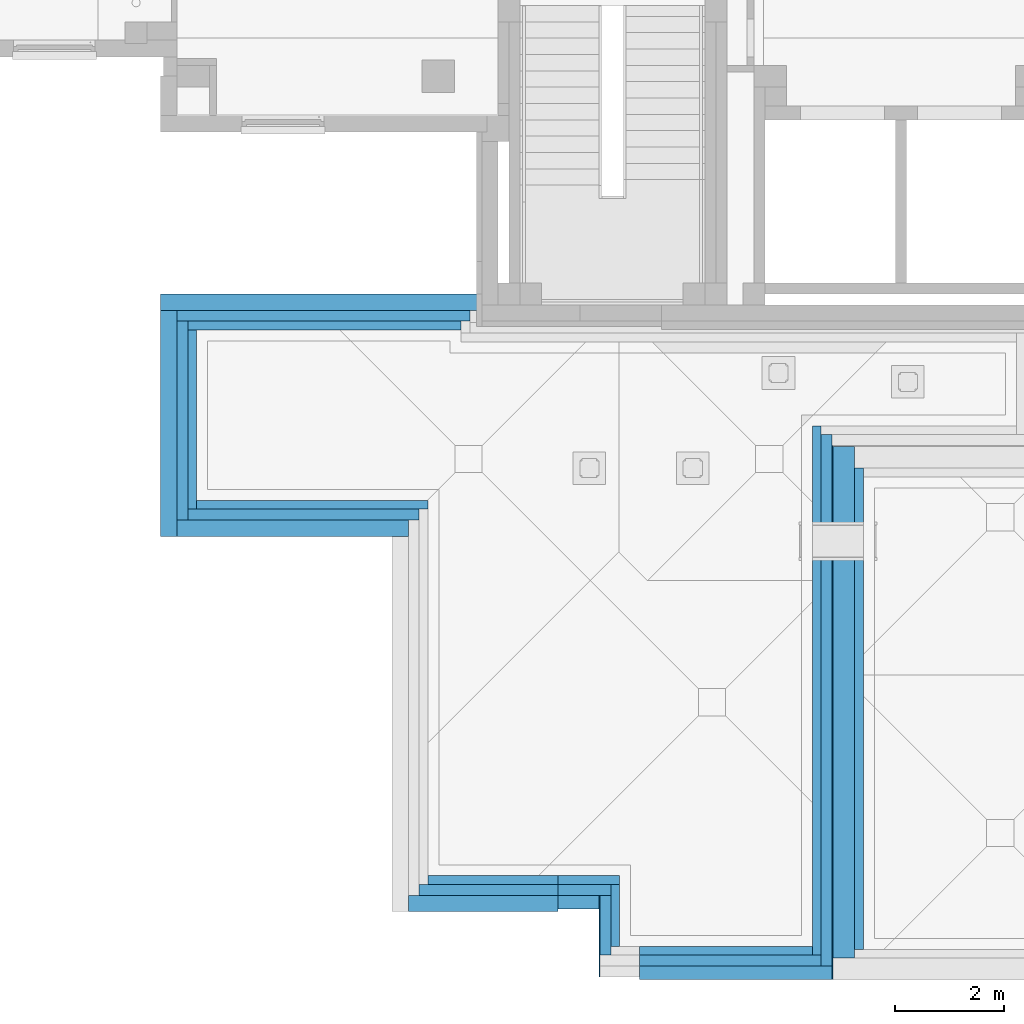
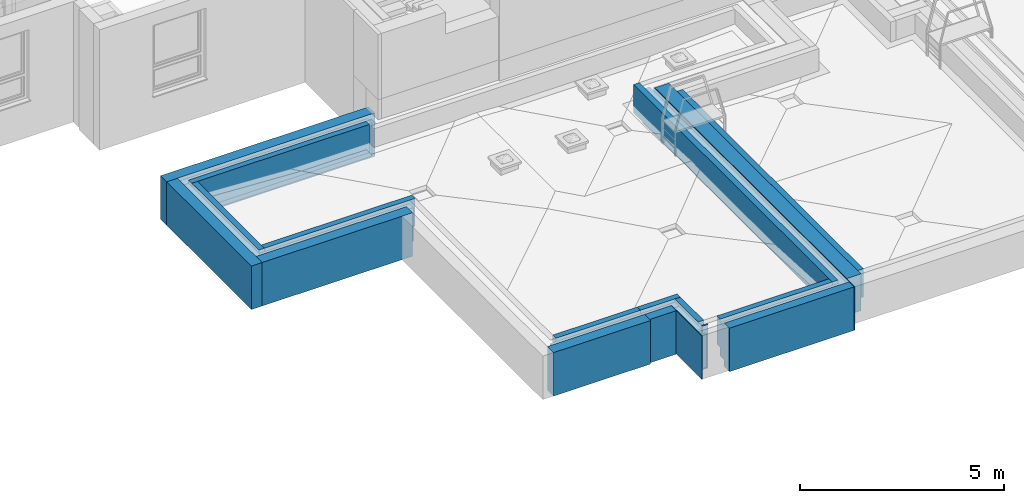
# One storey, part 19 of 50: 10 walls, 7 openings.
"""IFC4 building model written with IfcOpenShell, lengths in metres."""

from ifc_helpers import new_model, entity, si_unit, converted_unit, derived_unit, frame, frame_2d, origin, origin_with_axes, place, context, subcontext, project, spatial, polyline, rectangle, outline, extrude, clip, bounded_halfspace, material, layer, layer_set, layer_usage, element, save


model = new_model("IFC4")

# Units and contexts
model_context = context("Model", 3, precision=1e-05, world=origin())
body_context = subcontext(model_context, "Body", "Model", "MODEL_VIEW")
ifc_project = project(units=[si_unit("LENGTHUNIT", "METRE"), si_unit("AREAUNIT", "SQUARE_METRE"), si_unit("VOLUMEUNIT", "CUBIC_METRE"), si_unit("MASSUNIT", "GRAM", prefix="KILO"), converted_unit("PLANEANGLEUNIT", "DEGREE", entity("IfcPlaneAngleMeasure", 0.0174532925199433), si_unit("PLANEANGLEUNIT", "RADIAN"), dimensions=[0, 0, 0, 0, 0, 0, 0]), derived_unit("THERMALTRANSMITTANCEUNIT", [(si_unit("POWERUNIT", "WATT"), 1), (si_unit("THERMODYNAMICTEMPERATUREUNIT", "KELVIN"), -1), (si_unit("LENGTHUNIT", "METRE"), -2)]), derived_unit("VOLUMETRICFLOWRATEUNIT", [(si_unit("LENGTHUNIT", "METRE"), 3), (converted_unit("TIMEUNIT", "hour", entity("IfcTimeMeasure", 3600.0), si_unit("TIMEUNIT", "SECOND"), dimensions=[0, 0, 1, 0, 0, 0, 0]), -1), (si_unit("LENGTHUNIT", "METRE"), -1)])], contexts=[model_context])

# Site, building, storey
site_placement = place(None, origin())
site = spatial("IfcSite", under=ifc_project, at=site_placement, Name="3. ASŘ", CompositionType="ELEMENT")
building_placement = place(site_placement, origin())
building = spatial("IfcBuilding", under=site, at=building_placement, Name="Pavilon C", CompositionType="ELEMENT")
storey_placement = place(building_placement, frame((0.0, 0.0, 3.6)))
storey = spatial("IfcBuildingStorey", under=building, at=storey_placement, Name="Půdorys 2.NP", CompositionType="ELEMENT", Elevation=3.6)

# Wall, openings
ifc_material_1 = material(Name="STÁVAJÍC KCE")
ifc_layer_1 = layer(ifc_material_1, 0.4)
ifc_layer_set_1 = layer_set([ifc_layer_1])
ifc_layer_usage_1 = layer_usage(ifc_layer_set_1, "AXIS2", "POSITIVE", 0.0)
wall_1_placement = place(storey_placement, frame((36.8, -6.8, -0.15), z_axis=(0.0, 0.0, 1.0), x_axis=(0.0, -1.0, 0.0)))
wall_1 = element("IfcWall", 1, at=wall_1_placement, inside=storey, material=ifc_layer_usage_1, Name="STÁVAJÍCÍ KCE", context=body_context, shape_type="SweptSolid", body=[
    extrude(rectangle(XDim=9.40000000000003, YDim=0.4, at=frame_2d((4.70000000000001, 0.2), x_axis=(1.0, 0.0))), origin_with_axes(), (0.0, 0.0, 1.0), 1.1),
])
opening_1_placement = place(wall_1_placement, frame((3.8, 0.0, 0.55), z_axis=(0.0, 1.0, 0.0), x_axis=(0.0, 0.0, 1.0)))
element("IfcOpeningElement", 2, at=opening_1_placement, cuts=wall_1, Name="Prostup stěnou", ObjectType="Opening", context=body_context, shape_type="SweptSolid", body=[
    extrude(outline(polyline([(0.0, 0.15), (0.15, 0.15), (0.15, 0.0), (0.0, 0.0), (0.0, 0.15)])), origin_with_axes(), (0.0, 0.0, 1.0), 0.4),
])
opening_2_placement = place(wall_1_placement, frame((2.3, 0.0, 0.55), z_axis=(0.0, 1.0, 0.0), x_axis=(0.0, 0.0, 1.0)))
element("IfcOpeningElement", 3, at=opening_2_placement, cuts=wall_1, Name="Prostup stěnou", ObjectType="Opening", context=body_context, shape_type="SweptSolid", body=[
    extrude(outline(polyline([(0.0, 0.15), (0.15, 0.15), (0.15, 0.0), (0.0, 0.0), (0.0, 0.15)])), origin_with_axes(), (0.0, 0.0, 1.0), 0.4),
])
opening_3_placement = place(wall_1_placement, frame((0.799999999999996, 0.0, 0.55), z_axis=(0.0, 1.0, 0.0), x_axis=(0.0, 0.0, 1.0)))
element("IfcOpeningElement", 4, at=opening_3_placement, cuts=wall_1, Name="Prostup stěnou", ObjectType="Opening", context=body_context, shape_type="SweptSolid", body=[
    extrude(outline(polyline([(0.0, 0.15), (0.15, 0.15), (0.15, 0.0), (0.0, 0.0), (0.0, 0.15)])), origin_with_axes(), (0.0, 0.0, 1.0), 0.4),
])
opening_4_placement = place(wall_1_placement, frame((5.0, 0.0, 0.55), z_axis=(0.0, 1.0, 0.0), x_axis=(0.0, 0.0, 1.0)))
element("IfcOpeningElement", 5, at=opening_4_placement, cuts=wall_1, Name="Prostup stěnou", ObjectType="Opening", context=body_context, shape_type="SweptSolid", body=[
    extrude(outline(polyline([(0.0, 0.15), (0.15, 0.15), (0.15, 0.0), (0.0, 0.0), (0.0, 0.15)])), origin_with_axes(), (0.0, 0.0, 1.0), 0.4),
])
opening_5_placement = place(wall_1_placement, frame((6.2, 0.0, 0.55), z_axis=(0.0, 1.0, 0.0), x_axis=(0.0, 0.0, 1.0)))
element("IfcOpeningElement", 6, at=opening_5_placement, cuts=wall_1, Name="Prostup stěnou", ObjectType="Opening", context=body_context, shape_type="SweptSolid", body=[
    extrude(outline(polyline([(0.0, 0.15), (0.15, 0.15), (0.15, 0.0), (0.0, 0.0), (0.0, 0.15)])), origin_with_axes(), (0.0, 0.0, 1.0), 0.4),
])
opening_6_placement = place(wall_1_placement, frame((7.7, 0.0, 0.55), z_axis=(0.0, 1.0, 0.0), x_axis=(0.0, 0.0, 1.0)))
element("IfcOpeningElement", 7, at=opening_6_placement, cuts=wall_1, Name="Prostup stěnou", ObjectType="Opening", context=body_context, shape_type="SweptSolid", body=[
    extrude(outline(polyline([(0.0, 0.15), (0.15, 0.15), (0.15, 0.0), (0.0, 0.0), (0.0, 0.15)])), origin_with_axes(), (0.0, 0.0, 1.0), 0.4),
])
opening_7_placement = place(wall_1_placement, frame((9.2, 0.0, 0.55), z_axis=(0.0, 1.0, 0.0), x_axis=(0.0, 0.0, 1.0)))
element("IfcOpeningElement", 8, at=opening_7_placement, cuts=wall_1, Name="Prostup stěnou", ObjectType="Opening", context=body_context, shape_type="SweptSolid", body=[
    extrude(outline(polyline([(0.0, 0.15), (0.15, 0.15), (0.15, 0.0), (0.0, 0.0), (0.0, 0.15)])), origin_with_axes(), (0.0, 0.0, 1.0), 0.4),
])

# Walls
ifc_material_2 = material(Name="MINERÁLNÍ VATA")
ifc_layer_2 = layer(ifc_material_2, 0.299999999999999)
ifc_material_3 = material(Name="ZELEZOBETONOVÁ KCE")
ifc_layer_3 = layer(ifc_material_3, 0.2)
ifc_material_4 = material(Name="MINERÁLNÍ VATA")
ifc_layer_4 = layer(ifc_material_4, 0.160000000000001)
ifc_layer_set_2 = layer_set([ifc_layer_2, ifc_layer_3, ifc_layer_4])
ifc_layer_usage_2 = layer_usage(ifc_layer_set_2, "AXIS2", "POSITIVE", -0.3)
wall_2_placement = place(storey_placement, frame((30.33, -4.0, -0.35), z_axis=(0.0, 0.0, 1.0), x_axis=(-1.0, 1.54675969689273e-16, 0.0)))
element("IfcWall", 9, at=wall_2_placement, inside=storey, material=ifc_layer_usage_2, Name="MINERÁLNÍ VATA", context=body_context, shape_type="Clipping", body=[
    clip(clip(clip(extrude(outline(polyline([(-5.88, -0.360000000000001), (-5.88, -0.660000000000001), (1.02086139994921e-16, -0.660000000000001), (5.56833490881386e-17, -0.360000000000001), (-0.3, -0.360000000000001), (-0.3, -0.160000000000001), (-0.5, -0.160000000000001), (-0.5, -9.86832686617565e-16), (-5.52, -8.5381135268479e-16), (-5.52, -0.160000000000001), (-5.68, -0.160000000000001), (-5.68, -0.360000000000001), (-5.88, -0.360000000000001)])), frame((5.88, 0.660000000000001, 0.0), z_axis=(0.0, 0.0, 1.0), x_axis=(1.0, 0.0, 0.0)), (0.0, 0.0, 1.0), 1.3), bounded_halfspace(frame((2.89, 0.400000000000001, 0.2), z_axis=(0.0, 0.0, 1.0), x_axis=(1.54675969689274e-16, -1.0, 0.0)), True, origin_with_axes(), polyline([(0.2, 0.500000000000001), (0.2, 0.300000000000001), (5.58, 0.300000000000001), (5.58, 0.500000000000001), (0.2, 0.500000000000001)]))), bounded_halfspace(frame((2.87, 0.579999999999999, 0.46), z_axis=(0.0, 0.0, 1.0), x_axis=(1.54675969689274e-16, -1.0, 0.0)), True, origin_with_axes(), polyline([(0.360000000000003, 0.66), (0.360000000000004, 0.5), (5.38, 0.5), (5.38, 0.66), (0.360000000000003, 0.66)]))), bounded_halfspace(frame((2.88333333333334, 0.433333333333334, 1.2), z_axis=(0.0, 0.0, -1.0), x_axis=(1.0, -1.43750901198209e-17, 0.0)), True, origin_with_axes(), polyline([(0.2, 0.300000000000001), (5.58, 0.300000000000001), (5.58, 0.500000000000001), (5.38, 0.500000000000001), (0.360000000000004, 0.500000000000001), (0.2, 0.500000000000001), (0.2, 0.300000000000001)]))),
])
ifc_material_5 = material(Name="MINERÁLNÍ VATA")
ifc_layer_5 = layer(ifc_material_5, 0.3)
ifc_material_6 = material(Name="ZELEZOBETONOVÁ KCE")
ifc_layer_6 = layer(ifc_material_6, 0.2)
ifc_material_7 = material(Name="MINERÁLNÍ VATA")
ifc_layer_7 = layer(ifc_material_7, 0.16)
ifc_layer_set_3 = layer_set([ifc_layer_5, ifc_layer_6, ifc_layer_7])
ifc_layer_usage_3 = layer_usage(ifc_layer_set_3, "AXIS2", "POSITIVE", -0.3)
wall_3_placement = place(storey_placement, frame((24.45, -4.3, -0.35), z_axis=(0.0, 0.0, 1.0), x_axis=(0.0, -1.0, 0.0)))
element("IfcWall", 10, at=wall_3_placement, inside=storey, material=ifc_layer_usage_3, Name="MINERÁLNÍ VATA", context=body_context, shape_type="Clipping", body=[
    clip(clip(clip(extrude(outline(polyline([(-4.15000000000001, 0.0), (0.0, 0.0), (0.0, 0.3), (-0.299999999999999, 0.3), (-0.299999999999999, 0.5), (-0.499999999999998, 0.5), (-0.499999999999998, 0.66), (-3.79000000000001, 0.66), (-3.79000000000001, 0.5), (-3.95000000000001, 0.5), (-3.95000000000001, 0.3), (-4.15000000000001, 0.3), (-4.15000000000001, 0.0)])), frame((4.15000000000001, 0.0, 0.0), z_axis=(0.0, 0.0, 1.0), x_axis=(1.0, 0.0, 0.0)), (0.0, 0.0, 1.0), 1.3), bounded_halfspace(frame((2.02500000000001, 0.4, 0.2), z_axis=(0.0, 0.0, 1.0), x_axis=(0.0, -1.0, 0.0)), True, origin_with_axes(), polyline([(0.200000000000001, 0.5), (0.200000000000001, 0.3), (3.85000000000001, 0.3), (3.85000000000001, 0.5), (0.200000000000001, 0.5)]))), bounded_halfspace(frame((2.00500000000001, 0.58, 0.46), z_axis=(0.0, 0.0, 1.0), x_axis=(0.0, -1.0, 0.0)), True, origin_with_axes(), polyline([(0.36, 0.66), (0.36, 0.5), (3.65000000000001, 0.5), (3.65000000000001, 0.66), (0.36, 0.66)]))), bounded_halfspace(frame((2.01833333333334, 0.433333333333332, 1.2), z_axis=(0.0, 0.0, -1.0), x_axis=(1.0, 0.0, 0.0)), True, origin_with_axes(), polyline([(0.200000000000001, 0.3), (3.85000000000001, 0.3), (3.85000000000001, 0.5), (3.65000000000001, 0.5), (0.36, 0.5), (0.200000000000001, 0.5), (0.200000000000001, 0.3)]))),
])
ifc_material_8 = material(Name="MINERÁLNÍ VATA")
ifc_layer_8 = layer(ifc_material_8, 0.299999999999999)
ifc_material_9 = material(Name="ZELEZOBETONOVÁ KCE")
ifc_layer_9 = layer(ifc_material_9, 0.199999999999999)
ifc_material_10 = material(Name="MINERÁLNÍ VATA")
ifc_layer_10 = layer(ifc_material_10, 0.16)
ifc_layer_set_4 = layer_set([ifc_layer_8, ifc_layer_9, ifc_layer_10])
ifc_layer_usage_4 = layer_usage(ifc_layer_set_4, "AXIS2", "POSITIVE", -0.3)
wall_4_placement = place(storey_placement, frame((24.75, -8.45000000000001, -0.35)))
element("IfcWall", 11, at=wall_4_placement, inside=storey, material=ifc_layer_usage_4, Name="MINERÁLNÍ VATA", context=body_context, shape_type="Clipping", body=[
    clip(clip(clip(extrude(outline(polyline([(0.0, 0.0), (4.25, 0.0), (4.25, 0.299999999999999), (4.45, 0.299999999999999), (4.45, 0.499999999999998), (4.61, 0.499999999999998), (4.61, 0.659999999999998), (0.36, 0.659999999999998), (0.36, 0.499999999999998), (0.2, 0.499999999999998), (0.2, 0.299999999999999), (0.0, 0.299999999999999), (0.0, 0.0)])), origin_with_axes(), (0.0, 0.0, 1.0), 1.3), bounded_halfspace(frame((2.71, 0.379999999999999, 0.2), z_axis=(0.0, 0.0, 1.0), x_axis=(0.0, -1.0, 0.0)), True, origin_with_axes(), polyline([(0.199999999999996, 0.499999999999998), (0.199999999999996, 0.299999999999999), (4.25, 0.299999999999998), (4.45, 0.299999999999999), (4.45, 0.499999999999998), (0.199999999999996, 0.499999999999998)]))), bounded_halfspace(frame((2.878, 0.563999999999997, 0.460000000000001), z_axis=(0.0, 0.0, 1.0), x_axis=(0.0, -1.0, 0.0)), True, origin_with_axes(), polyline([(0.359999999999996, 0.659999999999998), (0.359999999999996, 0.499999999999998), (4.45, 0.499999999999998), (4.61, 0.499999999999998), (4.61, 0.659999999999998), (0.359999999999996, 0.659999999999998)]))), bounded_halfspace(frame((2.31833333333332, 0.399999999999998, 1.2), z_axis=(0.0, 0.0, -1.0), x_axis=(1.0, 4.54747350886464e-15, 0.0)), True, origin_with_axes(), polyline([(4.25, 0.299999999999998), (4.45, 0.299999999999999), (4.45, 0.499999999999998), (0.359999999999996, 0.499999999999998), (0.199999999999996, 0.499999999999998), (0.199999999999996, 0.299999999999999), (4.25, 0.299999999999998)]))),
])
ifc_material_11 = material(Name="EPS")
ifc_layer_11 = layer(ifc_material_11, 0.3)
ifc_material_12 = material(Name="ZELEZOBETONOVÁ KCE")
ifc_layer_12 = layer(ifc_material_12, 0.2)
ifc_material_13 = material(Name="MINERÁLNÍ VATA")
ifc_layer_13 = layer(ifc_material_13, 0.16)
ifc_layer_set_5 = layer_set([ifc_layer_11, ifc_layer_12, ifc_layer_13])
ifc_layer_usage_5 = layer_usage(ifc_layer_set_5, "AXIS2", "POSITIVE", -0.3)
wall_5_placement = place(storey_placement, frame((29.0, -15.345, -0.35)))
element("IfcWall", 12, at=wall_5_placement, inside=storey, material=ifc_layer_usage_5, Name="MINERÁLNÍ VATA", context=body_context, shape_type="Clipping", body=[
    clip(clip(clip(extrude(outline(polyline([(0.36, 0.66), (0.36, 0.5), (0.2, 0.5), (0.2, 0.3), (0.0, 0.3), (0.0, 0.0), (2.75, 0.0), (2.75, 0.66), (0.36, 0.66)])), origin_with_axes(), (0.0, 0.0, 1.0), 1.3), bounded_halfspace(frame((1.475, 0.4, 0.2), z_axis=(0.0, 0.0, 1.0), x_axis=(0.0, -1.0, 0.0)), True, origin_with_axes(), polyline([(0.2, 0.5), (0.2, 0.3), (2.75, 0.3), (2.75, 0.5), (0.2, 0.5)]))), bounded_halfspace(frame((1.555, 0.58, 0.46), z_axis=(0.0, 0.0, 1.0), x_axis=(0.0, -1.0, 0.0)), True, origin_with_axes(), polyline([(0.359999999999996, 0.66), (0.359999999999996, 0.5), (2.75, 0.5), (2.75, 0.66), (0.359999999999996, 0.66)]))), bounded_halfspace(frame((1.252, 0.42, 1.2), z_axis=(0.0, 0.0, -1.0), x_axis=(1.0, 0.0, 0.0)), True, origin_with_axes(), polyline([(0.2, 0.3), (2.75, 0.3), (2.75, 0.5), (0.359999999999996, 0.5), (0.2, 0.5), (0.2, 0.3)]))),
])
ifc_material_14 = material(Name="EPS")
ifc_layer_14 = layer(ifc_material_14, 0.25)
ifc_material_15 = material(Name="ZELEZOBETONOVÁ KCE")
ifc_layer_15 = layer(ifc_material_15, 0.2)
ifc_material_16 = material(Name="MINERÁLNÍ VATA")
ifc_layer_16 = layer(ifc_material_16, 0.16)
ifc_layer_set_6 = layer_set([ifc_layer_14, ifc_layer_15, ifc_layer_16])
ifc_layer_usage_6 = layer_usage(ifc_layer_set_6, "AXIS2", "POSITIVE", -0.25)
wall_6_placement = place(storey_placement, frame((31.75, -15.295, -0.35)))
element("IfcWall", 13, at=wall_6_placement, inside=storey, material=ifc_layer_usage_6, Name="MINERÁLNÍ VATA", context=body_context, shape_type="Clipping", body=[
    clip(clip(clip(extrude(outline(polyline([(0.0, 0.0), (0.749999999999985, 0.0), (0.749999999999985, 0.25), (0.97, 0.25), (0.97, 0.45), (1.13, 0.45), (1.13, 0.61), (0.0, 0.61), (0.0, 0.0)])), origin_with_axes(), (0.0, 0.0, 1.0), 1.3), bounded_halfspace(frame((0.538, 0.33, 0.2), z_axis=(0.0, 0.0, 1.0), x_axis=(-1.81898940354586e-14, -1.0, 0.0)), True, origin_with_axes(), polyline([(3.63797880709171e-15, 0.45), (0.0, 0.25), (0.749999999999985, 0.25), (0.970000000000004, 0.25), (0.970000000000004, 0.45), (3.63797880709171e-15, 0.45)]))), bounded_halfspace(frame((0.646, 0.514, 0.460000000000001), z_axis=(0.0, 0.0, 1.0), x_axis=(2.27373675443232e-14, -1.0, 0.0)), True, origin_with_axes(), polyline([(0.0, 0.61), (3.63797880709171e-15, 0.45), (0.970000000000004, 0.45), (1.13, 0.45), (1.13, 0.61), (0.0, 0.61)]))), bounded_halfspace(frame((0.538, 0.33, 1.2), z_axis=(0.0, 0.0, -1.0), x_axis=(1.0, 0.0, 0.0)), True, origin_with_axes(), polyline([(0.749999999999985, 0.25), (0.970000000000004, 0.25), (0.970000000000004, 0.45), (3.63797880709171e-15, 0.45), (0.0, 0.25), (0.749999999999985, 0.25)]))),
])
ifc_material_17 = material(Name="EPS")
wall_7_placement = place(storey_placement, frame((32.5, -15.045, -0.35), z_axis=(0.0, 0.0, 1.0), x_axis=(0.0, -1.0, 0.0)))
element("IfcWall", 14, at=wall_7_placement, inside=storey, material=ifc_material_17, Name="MINERÁLNÍ VATA", context=body_context, shape_type="Clipping", body=[
    clip(clip(clip(clip(clip(extrude(outline(polyline([(-0.560000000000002, 0.22), (-0.560000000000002, 0.38), (-1.70000000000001, 0.38), (-1.70000000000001, 0.22), (-1.50000000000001, 0.22), (-1.50000000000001, 0.0), (0.0, 0.0), (0.0, 0.02), (-0.15, 0.02), (-0.15, 0.22), (-0.200000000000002, 0.22), (-0.200000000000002, 0.02), (-0.400000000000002, 0.02), (-0.400000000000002, 0.22), (-0.560000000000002, 0.22)])), frame((1.50000000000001, 0.0, 0.0), z_axis=(0.0, 0.0, 1.0), x_axis=(1.0, 0.0, 0.0)), (0.0, 0.0, 1.0), 1.3), bounded_halfspace(frame((1.32500000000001, 0.120000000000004, 0.2), z_axis=(0.0, 0.0, 1.0), x_axis=(1.0, 0.0, 0.0)), True, origin_with_axes(), polyline([(1.30000000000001, 0.0200000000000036), (1.35000000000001, 0.0200000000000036), (1.35000000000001, 0.220000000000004), (1.30000000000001, 0.220000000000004), (1.30000000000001, 0.0200000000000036)]))), bounded_halfspace(frame((0.296000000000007, 0.284, 0.460000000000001), z_axis=(0.0, 0.0, 1.0), x_axis=(1.0, 1.81898940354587e-14, 0.0)), True, origin_with_axes(), polyline([(-0.199999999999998, 0.22), (0.0, 0.220000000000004), (0.940000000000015, 0.22), (0.940000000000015, 0.38), (-0.199999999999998, 0.38), (-0.199999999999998, 0.22)]))), bounded_halfspace(frame((0.550000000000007, 0.12, 0.2), z_axis=(0.0, 0.0, 1.0), x_axis=(1.0, 6.61450692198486e-15, 0.0)), True, origin_with_axes(), polyline([(0.0, 0.0199999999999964), (1.10000000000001, 0.0200000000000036), (1.10000000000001, 0.220000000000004), (0.0, 0.220000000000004), (0.0, 0.0199999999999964)]))), bounded_halfspace(frame((1.32500000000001, 0.120000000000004, 1.2), z_axis=(0.0, 0.0, -1.0), x_axis=(1.0, 0.0, 0.0)), True, origin_with_axes(), polyline([(1.30000000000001, 0.0200000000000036), (1.35000000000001, 0.0200000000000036), (1.35000000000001, 0.220000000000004), (1.30000000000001, 0.220000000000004), (1.30000000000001, 0.0200000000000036)]))), bounded_halfspace(frame((0.628000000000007, 0.14, 1.2), z_axis=(0.0, 0.0, -1.0), x_axis=(1.0, 6.61450692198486e-15, 0.0)), True, origin_with_axes(), polyline([(0.0, 0.0199999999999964), (1.10000000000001, 0.0200000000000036), (1.10000000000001, 0.220000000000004), (0.940000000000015, 0.220000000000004), (0.0, 0.220000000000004), (0.0, 0.0199999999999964)]))),
    clip(clip(clip(clip(clip(extrude(rectangle(XDim=0.16, YDim=0.0500000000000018, at=frame_2d((-0.0250000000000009, 0.08), x_axis=(0.0, 1.0))), frame((1.15000000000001, 0.22, 0.0), z_axis=(0.0, 0.0, 1.0), x_axis=(1.0, 0.0, 0.0)), (0.0, 0.0, 1.0), 1.3), bounded_halfspace(frame((1.32500000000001, 0.120000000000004, 0.2), z_axis=(0.0, 0.0, 1.0), x_axis=(1.0, 0.0, 0.0)), True, origin_with_axes(), polyline([(1.30000000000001, 0.0200000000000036), (1.35000000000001, 0.0200000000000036), (1.35000000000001, 0.220000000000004), (1.30000000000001, 0.220000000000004), (1.30000000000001, 0.0200000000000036)]))), bounded_halfspace(frame((0.296000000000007, 0.284, 0.460000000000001), z_axis=(0.0, 0.0, 1.0), x_axis=(1.0, 1.81898940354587e-14, 0.0)), True, origin_with_axes(), polyline([(-0.199999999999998, 0.22), (0.0, 0.220000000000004), (0.940000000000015, 0.22), (0.940000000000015, 0.38), (-0.199999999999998, 0.38), (-0.199999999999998, 0.22)]))), bounded_halfspace(frame((0.550000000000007, 0.12, 0.2), z_axis=(0.0, 0.0, 1.0), x_axis=(1.0, 6.61450692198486e-15, 0.0)), True, origin_with_axes(), polyline([(0.0, 0.0199999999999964), (1.10000000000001, 0.0200000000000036), (1.10000000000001, 0.220000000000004), (0.0, 0.220000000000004), (0.0, 0.0199999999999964)]))), bounded_halfspace(frame((1.32500000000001, 0.120000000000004, 1.2), z_axis=(0.0, 0.0, -1.0), x_axis=(1.0, 0.0, 0.0)), True, origin_with_axes(), polyline([(1.30000000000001, 0.0200000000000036), (1.35000000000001, 0.0200000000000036), (1.35000000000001, 0.220000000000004), (1.30000000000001, 0.220000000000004), (1.30000000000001, 0.0200000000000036)]))), bounded_halfspace(frame((0.628000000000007, 0.14, 1.2), z_axis=(0.0, 0.0, -1.0), x_axis=(1.0, 6.61450692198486e-15, 0.0)), True, origin_with_axes(), polyline([(0.0, 0.0199999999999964), (1.10000000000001, 0.0200000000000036), (1.10000000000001, 0.220000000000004), (0.940000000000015, 0.220000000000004), (0.0, 0.220000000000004), (0.0, 0.0199999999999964)]))),
])
ifc_material_18 = material(Name="EPS")
ifc_layer_17 = layer(ifc_material_18, 0.02)
ifc_material_19 = material(Name="ZELEZOBETONOVÁ KCE")
ifc_layer_18 = layer(ifc_material_19, 0.2)
ifc_material_20 = material(Name="MINERÁLNÍ VATA")
ifc_layer_19 = layer(ifc_material_20, 0.16)
ifc_layer_set_7 = layer_set([ifc_layer_17, ifc_layer_18, ifc_layer_19])
ifc_layer_usage_7 = layer_usage(ifc_layer_set_7, "AXIS2", "POSITIVE", -0.02)
wall_8_placement = place(storey_placement, frame((36.8, -16.595, -0.35), z_axis=(0.0, 0.0, 1.0), x_axis=(0.0, 1.0, 0.0)))
element("IfcWall", 15, at=wall_8_placement, inside=storey, material=ifc_layer_usage_7, Name="MINERÁLNÍ VATA", context=body_context, shape_type="Clipping", body=[
    clip(clip(clip(extrude(outline(polyline([(0.0, -0.38), (9.81500000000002, -0.38), (9.81500000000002, -0.36), (10.015, -0.36), (10.015, -0.16), (10.175, -0.16), (10.175, 0.0), (0.450000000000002, 0.0), (0.450000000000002, -0.16), (0.250000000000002, -0.16), (0.250000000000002, -0.36), (0.0, -0.36), (0.0, -0.38)])), frame((0.0, 0.38, 0.0), z_axis=(0.0, 0.0, 1.0), x_axis=(1.0, 0.0, 0.0)), (0.0, 0.0, 1.0), 1.3), bounded_halfspace(frame((6.06900000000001, 0.1, 0.2), z_axis=(0.0, 0.0, 1.0), x_axis=(0.0, -1.0, 0.0)), True, origin_with_axes(), polyline([(0.250000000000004, 0.22), (0.250000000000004, 0.02), (9.81500000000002, 0.02), (10.015, 0.02), (10.015, 0.22), (0.250000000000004, 0.22)]))), bounded_halfspace(frame((6.25300000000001, 0.284, 0.460000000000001), z_axis=(0.0, 0.0, 1.0), x_axis=(0.0, -1.0, 0.0)), True, origin_with_axes(), polyline([(0.450000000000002, 0.38), (0.450000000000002, 0.22), (10.015, 0.22), (10.175, 0.22), (10.175, 0.38), (0.450000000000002, 0.38)]))), bounded_halfspace(frame((5.13250000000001, 0.12, 1.2), z_axis=(0.0, 0.0, -1.0), x_axis=(1.0, 0.0, 0.0)), True, origin_with_axes(), polyline([(9.81500000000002, 0.02), (10.015, 0.02), (10.015, 0.22), (0.450000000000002, 0.22), (0.250000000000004, 0.22), (0.250000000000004, 0.02), (9.81500000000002, 0.02)]))),
])
ifc_material_21 = material(Name="MINERÁLNÍ VATA")
ifc_layer_20 = layer(ifc_material_21, 0.16)
ifc_layer_set_8 = layer_set([ifc_layer_20])
ifc_layer_usage_8 = layer_usage(ifc_layer_set_8, "AXIS2", "POSITIVE", 0.0)
wall_9_placement = place(storey_placement, frame((37.2, -7.2, 0.11), z_axis=(0.0, 0.0, 1.0), x_axis=(0.0, -1.0, 0.0)))
element("IfcWall", 16, at=wall_9_placement, inside=storey, material=ifc_layer_usage_8, Name="MINERÁLNÍ VATA", context=body_context, shape_type="SweptSolid", body=[
    extrude(rectangle(XDim=8.84000000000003, YDim=0.16, at=frame_2d((4.42000000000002, 0.08), x_axis=(1.0, 0.0))), origin_with_axes(), (0.0, 0.0, 1.0), 0.84),
])
ifc_material_22 = material(Name="EPS")
ifc_layer_21 = layer(ifc_material_22, 0.250000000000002)
ifc_material_23 = material(Name="ZELEZOBETONOVÁ KCE")
ifc_layer_22 = layer(ifc_material_23, 0.2)
ifc_material_24 = material(Name="MINERÁLNÍ VATA")
ifc_layer_23 = layer(ifc_material_24, 0.16)
ifc_layer_set_9 = layer_set([ifc_layer_21, ifc_layer_22, ifc_layer_23])
ifc_layer_usage_9 = layer_usage(ifc_layer_set_9, "AXIS2", "POSITIVE", -0.25)
wall_10_placement = place(storey_placement, frame((33.25, -16.595, -0.35)))
element("IfcWall", 17, at=wall_10_placement, inside=storey, material=ifc_layer_usage_9, Name="MINERÁLNÍ VATA", context=body_context, shape_type="Clipping", body=[
    clip(clip(clip(extrude(outline(polyline([(0.0, 0.0), (3.53000000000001, 0.0), (3.53000000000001, 0.250000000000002), (3.33000000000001, 0.250000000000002), (3.33000000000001, 0.450000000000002), (3.17000000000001, 0.450000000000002), (3.17000000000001, 0.610000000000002), (0.0, 0.610000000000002), (0.0, 0.0)])), origin_with_axes(), (0.0, 0.0, 1.0), 1.3), bounded_halfspace(frame((1.66500000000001, 0.350000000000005, 0.2), z_axis=(0.0, 0.0, 1.0), x_axis=(0.0, -1.0, 0.0)), True, origin_with_axes(), polyline([(0.0, 0.450000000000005), (0.0, 0.250000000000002), (3.33000000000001, 0.250000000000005), (3.33000000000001, 0.450000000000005), (0.0, 0.450000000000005)]))), bounded_halfspace(frame((1.58500000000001, 0.530000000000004, 0.46), z_axis=(0.0, 0.0, 1.0), x_axis=(0.0, -1.0, 0.0)), True, origin_with_axes(), polyline([(0.0, 0.610000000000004), (0.0, 0.450000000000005), (3.17000000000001, 0.450000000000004), (3.17000000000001, 0.610000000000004), (0.0, 0.610000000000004)]))), bounded_halfspace(frame((1.96600000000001, 0.370000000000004, 1.2), z_axis=(0.0, 0.0, -1.0), x_axis=(1.0, 1.09248612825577e-15, 0.0)), True, origin_with_axes(), polyline([(0.0, 0.250000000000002), (3.33000000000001, 0.250000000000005), (3.33000000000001, 0.450000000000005), (3.17000000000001, 0.450000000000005), (0.0, 0.450000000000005), (0.0, 0.250000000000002)]))),
])

save(model, "model.ifc")
